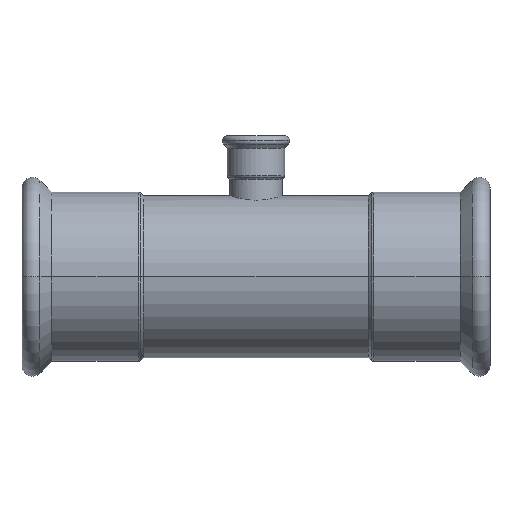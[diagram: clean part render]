
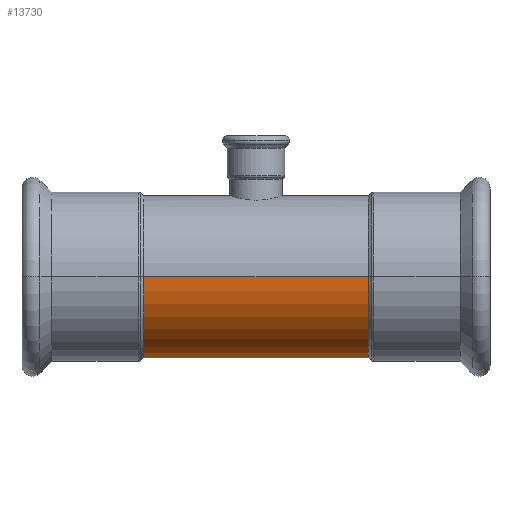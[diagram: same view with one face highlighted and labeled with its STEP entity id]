
A CAD part, front view. The second image highlights one B-rep face of the part: STEP entity #13730.
In plain terms, the highlighted cylindrical face has radius 54 mm (diameter 108 mm), a partial arc.
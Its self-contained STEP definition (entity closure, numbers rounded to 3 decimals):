
#2670=CARTESIAN_POINT('',(-213.511,128.522,0.));
#2680=DIRECTION('',(1.,0.,0.));
#2690=DIRECTION('',(0.,0.,-1.));
#2700=AXIS2_PLACEMENT_3D('',#2670,#2680,#2690);
#2710=CYLINDRICAL_SURFACE('',#2700,54.);
#5860=CARTESIAN_POINT('',(-363.511,128.522,-54.));
#5870=VERTEX_POINT('',#5860);
#6050=CARTESIAN_POINT('',(-363.511,128.522,54.));
#6060=VERTEX_POINT('',#6050);
#6090=CARTESIAN_POINT('',(-363.511,128.522,0.));
#6100=DIRECTION('',(1.,0.,0.));
#6110=DIRECTION('',(0.,0.,-1.));
#6120=AXIS2_PLACEMENT_3D('',#6090,#6100,#6110);
#6130=CIRCLE('',#6120,54.);
#6140=EDGE_CURVE('',#6060,#5870,#6130,.T.);
#13240=CARTESIAN_POINT('',(-213.511,128.522,54.));
#13250=VERTEX_POINT('',#13240);
#13430=CARTESIAN_POINT('',(-213.511,128.522,-54.));
#13440=VERTEX_POINT('',#13430);
#13470=CARTESIAN_POINT('',(-213.511,128.522,0.));
#13480=DIRECTION('',(1.,0.,0.));
#13490=DIRECTION('',(0.,0.,1.));
#13500=AXIS2_PLACEMENT_3D('',#13470,#13480,#13490);
#13510=CIRCLE('',#13500,54.);
#13520=EDGE_CURVE('',#13250,#13440,#13510,.T.);
#13570=CARTESIAN_POINT('',(-213.511,128.522,54.));
#13580=DIRECTION('',(1.,0.,0.));
#13590=VECTOR('',#13580,1.);
#13600=LINE('',#13570,#13590);
#13610=EDGE_CURVE('',#6060,#13250,#13600,.T.);
#13620=ORIENTED_EDGE('',*,*,#13610,.F.);
#13630=ORIENTED_EDGE('',*,*,#13520,.F.);
#13640=CARTESIAN_POINT('',(-213.511,128.522,-54.));
#13650=DIRECTION('',(1.,0.,0.));
#13660=VECTOR('',#13650,1.);
#13670=LINE('',#13640,#13660);
#13680=EDGE_CURVE('',#5870,#13440,#13670,.T.);
#13690=ORIENTED_EDGE('',*,*,#13680,.T.);
#13700=ORIENTED_EDGE('',*,*,#6140,.T.);
#13710=EDGE_LOOP('',(#13700,#13690,#13630,#13620));
#13720=FACE_OUTER_BOUND('',#13710,.T.);
#13730=ADVANCED_FACE('',(#13720),#2710,.T.);
